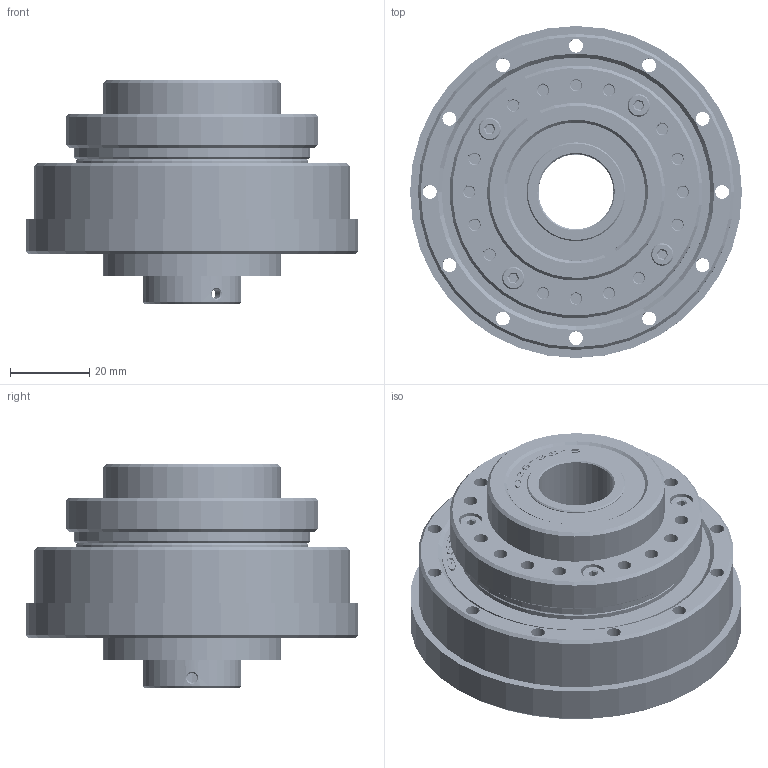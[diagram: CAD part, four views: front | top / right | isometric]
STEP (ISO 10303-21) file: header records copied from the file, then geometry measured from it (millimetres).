
FILE_DESCRIPTION(/* description */ (''),/* implementation_level */ '2;1');
FILE_NAME(/* name */ 'XBK17成品图.prt.stp',/* time_stamp */ '2022-05-09T12:54:53+08:00',/* author */ (''),/* organization */ (''),/* preprocessor_version */ 'ST-DEVELOPER v16',/* originating_system */ 'SIEMENS PLM Software NX 10.0',/* authorisation */ '');
FILE_SCHEMA (('CONFIG_CONTROL_DESIGN'));
Products named in the file (16): 17-柔性轴承保持架（日标）; M2X6; XBK17-4-1-1销子; M3X16; YM3X12; G25355; XBK17-6上盖板; XBK17-3-1凸轮; 深沟球轴承6805-2Z; XBK17-1钢轮; G59685; XBK17-4-2外圈; XBK17-2柔轮; 17-柔性轴承保持架_MODEL; XBK17-4-1内芯_MODEL; XBK17成品图
Assembly tree (23 placements, depth 3):
  XBK17成品图
    XBK17-2柔轮
    XBK17-4-2外圈
    G59685
    XBK17-4-1内芯_MODEL
      XBK17-4-1-1销子
      M2X6
    XBK17-1钢轮
    深沟球轴承6805-2Z  x2
    XBK17-3-1凸轮
    17-柔性轴承保持架_MODEL
      17-柔性轴承保持架（日标）
    XBK17-6上盖板
    G25355  x2
    YM3X12  x4
    M3X16  x4
Bounding box: 84 x 84 x 56.5 mm (x, y, z)
Volume: 128492.8 mm3; surface area: 108473.7 mm2
Topology: 94 solids, 94 shells, 1198 faces, 3056 edges, 2018 vertices
Faces by surface type: plane 469, cylinder 307, cone 124, extrusion 124, bspline 93, sphere 67, torus 14
Full cylindrical faces by diameter (mm): 2.3 x1, 2.5 x7, 2.7 x33, 3.5 x84, 4 x2, 5.6 x4, 5.68 x4, 6 x4, 6.5 x4, 19 x2, 19.5 x1, 25 x6, 27 x2, 28 x3, 29 x4, 30.3 x1, 31.5 x1, 33 x7, 33.1 x1, 33.3 x2, 34 x1, 35 x4, 36.7 x1, 37 x4, 38.722 x2, 41.4 x1, 41.722 x2, 42.282 x1, 43 x1, 44 x2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
Entity records: 134255 total; most frequent: CARTESIAN_POINT 113937, ORIENTED_EDGE 3454, DIRECTION 3236, EDGE_CURVE 1727, EDGE_LOOP 1440, VERTEX_POINT 1349, AXIS2_PLACEMENT_3D 1330, FACE_BOUND 1021
